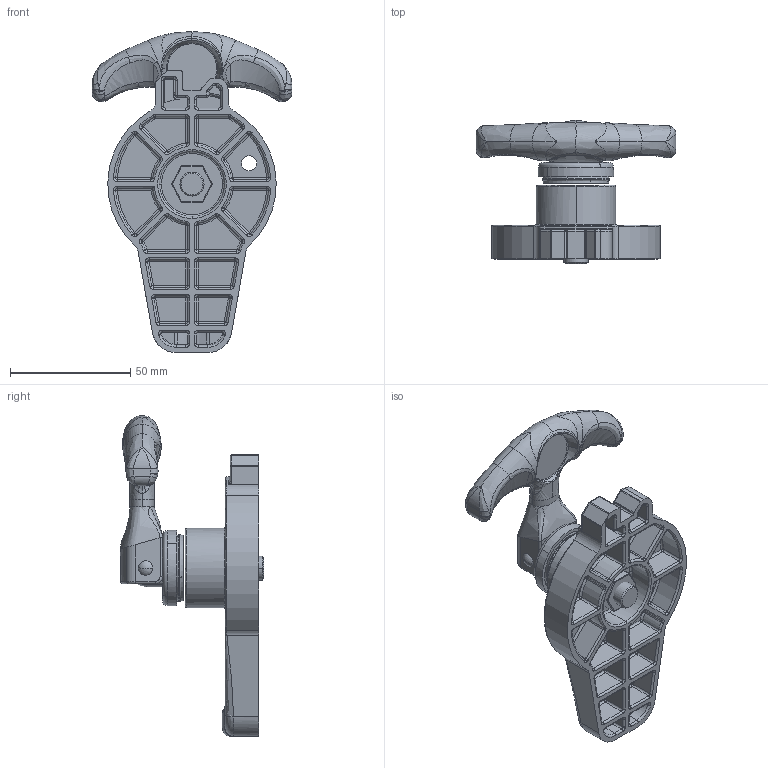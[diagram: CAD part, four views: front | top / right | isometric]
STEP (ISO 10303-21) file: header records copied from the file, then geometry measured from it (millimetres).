
FILE_DESCRIPTION (( 'STEP AP203' ), '1' );
FILE_NAME ('E299602.STEP', '2025-03-27T14:16:19', ( '' ), ( '' ), 'SwSTEP 2.0', 'SolidWorks 2023', '' );
FILE_SCHEMA (( 'CONFIG_CONTROL_DESIGN' ));
Length unit declared in the file: millimetre
Products named in the file (1): E299602
Bounding box: 83 x 59.45 x 133.39 mm (x, y, z)
Surface area: 38415.4 mm2 (no closed solid volume)
Topology: 0 solids, 12 shells, 893 faces, 2291 edges, 1373 vertices
Faces by surface type: cylinder 331, torus 172, plane 163, bspline 149, sphere 66, cone 12
Entity records: 46840 total; most frequent: CARTESIAN_POINT 27144, ORIENTED_EDGE 4212, DIRECTION 3872, EDGE_CURVE 2210, AXIS2_PLACEMENT_3D 1598, VERTEX_POINT 1333, EDGE_LOOP 930, FACE_OUTER_BOUND 893
